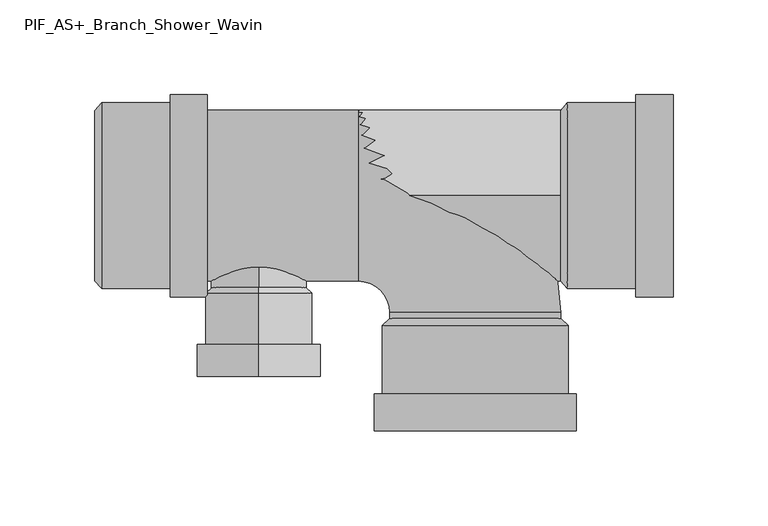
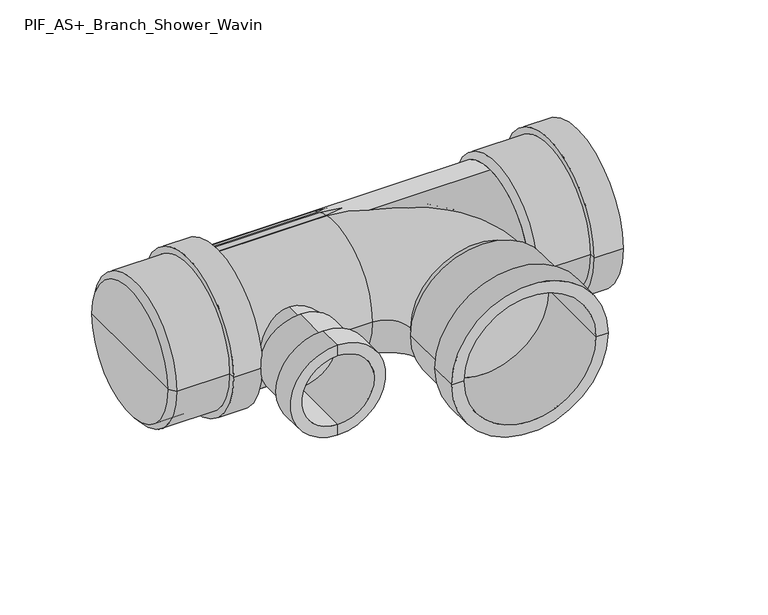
"""IFC4 building model written with IfcOpenShell, lengths in millimetres: pipe fitting geometry, PIF_AS+_Branch_Shower_Wavin : 1. DN100-50/90-50 Standard."""

from ifc_helpers import new_model, si_unit, point, frame, frame_2d, origin, origin_2d, place, context, project, spatial, polyline, circle_curve, ellipse_curve, trimmed, segment, composite_curve, outline, extrude, source, transform, mapped, element, save
from ifc_brep_helpers import plane_surface, cylinder_surface, revolved_surface, advanced_brep


def pif_as_branch_shower_wavin_a978f990(model_context):
    return source(origin(), model_context, "Body", "SolidModel", [
        advanced_brep(
        [(-114.0, -48.3, -24.75), (-114.0, -48.3, 24.75), (-114.0, -51.3, 28.0), (-114.0, -51.3, -28.0), (-114.0, -48.3, 0.0), (-114.0, -51.3, -24.75), (-114.0, -51.3, 24.75), (-114.0, -51.3, 0.0), (-114.0, -95.3, -24.75), (-114.0, -95.3, 24.75), (-114.0, -95.3, -32.35), (-114.0, -95.3, 32.35), (-114.0, -78.3, -32.35), (-114.0, -78.3, 32.35), (-114.0, -78.3, -28.0), (-114.0, -78.3, 28.0)],
        [
            (0, 1, circle_curve(frame((-114.0, -48.3, 0.0), z_axis=(0.0, -1.0, 0.0), x_axis=(0.0, 0.0, 1.0)), 24.75)),
            (1, 2),
            (2, 3, circle_curve(frame((-114.0, -51.3, 0.0), z_axis=(0.0, 1.0, 0.0), x_axis=(0.0, 0.0, 1.0)), 28.0)),
            (3, 0),
            (1, 0, circle_curve(frame((-114.0, -48.3, 0.0), z_axis=(0.0, -1.0, 0.0), x_axis=(0.0, 0.0, 1.0)), 24.75)),
            (3, 2, circle_curve(frame((-114.0, -51.3, 0.0), z_axis=(0.0, 1.0, 0.0), x_axis=(0.0, 0.0, 1.0)), 28.0)),
            (4, 1),
            (0, 4),
            (5, 6, circle_curve(frame((-114.0, -51.3, 0.0), z_axis=(0.0, -1.0, 0.0), x_axis=(0.0, 0.0, 1.0)), 24.75)),
            (6, 7),
            (7, 5),
            (6, 5, circle_curve(frame((-114.0, -51.3, 0.0), z_axis=(0.0, -1.0, 0.0), x_axis=(0.0, 0.0, 1.0)), 24.75)),
            (8, 9, circle_curve(frame((-114.0, -95.3, 0.0), z_axis=(0.0, -1.0, 0.0), x_axis=(0.0, 0.0, 1.0)), 24.75)),
            (9, 6),
            (5, 8),
            (9, 8, circle_curve(frame((-114.0, -95.3, 0.0), z_axis=(0.0, -1.0, 0.0), x_axis=(0.0, 0.0, 1.0)), 24.75)),
            (10, 11, circle_curve(frame((-114.0, -95.3, 0.0), z_axis=(0.0, -1.0, 0.0), x_axis=(0.0, 0.0, 1.0)), 32.35)),
            (11, 9),
            (8, 10),
            (11, 10, circle_curve(frame((-114.0, -95.3, 0.0), z_axis=(0.0, -1.0, 0.0), x_axis=(0.0, 0.0, 1.0)), 32.35)),
            (12, 13, circle_curve(frame((-114.0, -78.3, 0.0), z_axis=(0.0, -1.0, 0.0), x_axis=(0.0, 0.0, 1.0)), 32.35)),
            (13, 11),
            (10, 12),
            (13, 12, circle_curve(frame((-114.0, -78.3, 0.0), z_axis=(0.0, -1.0, 0.0), x_axis=(0.0, 0.0, 1.0)), 32.35)),
            (14, 15, circle_curve(frame((-114.0, -78.3, 0.0), z_axis=(0.0, -1.0, 0.0), x_axis=(0.0, 0.0, 1.0)), 28.0)),
            (15, 13),
            (12, 14),
            (15, 14, circle_curve(frame((-114.0, -78.3, 0.0), z_axis=(0.0, -1.0, 0.0), x_axis=(0.0, 0.0, 1.0)), 28.0)),
            (2, 15),
            (14, 3),
        ],
        [
            revolved_surface(polyline([(-114.0, -51.3, 28.0), (-114.0, -48.3, 24.75)]), (-114.0, -1998.4265064, 0.0), (0.0, 1.0, 0.0)),
            plane_surface(frame((-114.0, -48.3, 0.0), z_axis=(0.0, 1.0, 0.0), x_axis=(0.0, 0.0, 1.0))),
            plane_surface(frame((-114.0, -51.3, 0.0), z_axis=(0.0, -1.0, 0.0), x_axis=(0.0, 0.0, 1.0))),
            revolved_surface(polyline([(-114.0, -51.299999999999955, 24.75), (-114.0, -95.29999999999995, 24.75)]), (-114.0, -1998.4265064, 0.0), (0.0, 1.0, 0.0)),
            plane_surface(frame((-114.0, -95.3, 0.0), z_axis=(0.0, -1.0, 0.0), x_axis=(0.0, 0.0, 1.0))),
            cylinder_surface(frame((-114.0, -1998.4265064, 0.0), z_axis=(0.0, 1.0, 0.0), x_axis=(0.0, 0.0, 1.0)), 32.35),
            plane_surface(frame((-114.0, -78.3, 0.0), z_axis=(0.0, 1.0, 0.0), x_axis=(0.0, 0.0, 1.0))),
            cylinder_surface(frame((-114.0, -1998.4265064, 0.0), z_axis=(0.0, 1.0, 0.0), x_axis=(0.0, 0.0, 1.0)), 28.0),
        ],
        [
            (0, [[1, 2, 3, 4]]),
            (0, [[5, -4, 6, -2]]),
            (1, [[7, -1, 8]]),
            (1, [[-8, -5, -7]]),
            (2, [[9, 10, 11]]),
            (2, [[12, -11, -10]]),
            (3, [[13, 14, -9, 15]]),
            (3, [[16, -15, -12, -14]]),
            (4, [[17, 18, -13, 19]]),
            (4, [[20, -19, -16, -18]]),
            (5, [[21, 22, -17, 23]]),
            (5, [[24, -23, -20, -22]]),
            (6, [[25, 26, -21, 27]]),
            (6, [[28, -27, -24, -26]]),
            (7, [[-3, 29, -25, 30]]),
            (7, [[-6, -30, -28, -29]]),
        ],
    ),
        advanced_brep(
        [(-200.4, -45.0, 0.0), (-200.4, 45.0, 0.0), (-196.8, 49.0, 0.0), (-196.8, -49.0, 0.0), (-200.4, 0.0, 0.0), (-196.8, -45.0, 0.0), (-196.8, 45.0, 0.0), (-196.8, 0.0, 0.0), (-141.1, -45.0, 0.0), (-141.1, 45.0, 0.0), (-141.1, -53.25, 0.0), (-141.1, 53.25, 0.0), (-160.7, -53.25, 0.0), (-160.7, 53.25, 0.0), (-160.7, -49.0, 0.0), (-160.7, 49.0, 0.0)],
        [
            (0, 1, circle_curve(frame((-200.4, 0.0, 0.0), z_axis=(1.0, 0.0, 0.0), x_axis=(0.0, 1.0, 0.0)), 45.0)),
            (1, 2),
            (2, 3, circle_curve(frame((-196.8, 0.0, 0.0), z_axis=(-1.0, 0.0, 0.0), x_axis=(0.0, 1.0, 0.0)), 49.0)),
            (3, 0),
            (1, 0, circle_curve(frame((-200.4, 0.0, 0.0), z_axis=(1.0, 0.0, 0.0), x_axis=(0.0, 1.0, 0.0)), 45.0)),
            (3, 2, circle_curve(frame((-196.8, 0.0, 0.0), z_axis=(-1.0, 0.0, 0.0), x_axis=(0.0, 1.0, 0.0)), 49.0)),
            (4, 1),
            (0, 4),
            (5, 6, circle_curve(frame((-196.8, 0.0, 0.0), z_axis=(1.0, 0.0, 0.0), x_axis=(0.0, 1.0, 0.0)), 45.0)),
            (6, 7),
            (7, 5),
            (6, 5, circle_curve(frame((-196.8, 0.0, 0.0), z_axis=(1.0, 0.0, 0.0), x_axis=(0.0, 1.0, 0.0)), 45.0)),
            (8, 9, circle_curve(frame((-141.1, 0.0, 0.0), z_axis=(1.0, 0.0, 0.0), x_axis=(0.0, 1.0, 0.0)), 45.0)),
            (9, 6),
            (5, 8),
            (9, 8, circle_curve(frame((-141.1, 0.0, 0.0), z_axis=(1.0, 0.0, 0.0), x_axis=(0.0, 1.0, 0.0)), 45.0)),
            (10, 11, circle_curve(frame((-141.1, 0.0, 0.0), z_axis=(1.0, 0.0, 0.0), x_axis=(0.0, 1.0, 0.0)), 53.25)),
            (11, 9),
            (8, 10),
            (11, 10, circle_curve(frame((-141.1, 0.0, 0.0), z_axis=(1.0, 0.0, 0.0), x_axis=(0.0, 1.0, 0.0)), 53.25)),
            (12, 13, circle_curve(frame((-160.7, 0.0, 0.0), z_axis=(1.0, 0.0, 0.0), x_axis=(0.0, 1.0, 0.0)), 53.25)),
            (13, 11),
            (10, 12),
            (13, 12, circle_curve(frame((-160.7, 0.0, 0.0), z_axis=(1.0, 0.0, 0.0), x_axis=(0.0, 1.0, 0.0)), 53.25)),
            (14, 15, circle_curve(frame((-160.7, 0.0, 0.0), z_axis=(1.0, 0.0, 0.0), x_axis=(0.0, 1.0, 0.0)), 49.0)),
            (15, 13),
            (12, 14),
            (15, 14, circle_curve(frame((-160.7, 0.0, 0.0), z_axis=(1.0, 0.0, 0.0), x_axis=(0.0, 1.0, 0.0)), 49.0)),
            (2, 15),
            (14, 3),
        ],
        [
            revolved_surface(polyline([(-196.8, 49.0, 0.0), (-200.4, 45.0, 0.0)]), (1762.0265064, 0.0, 0.0), (-1.0, 0.0, 0.0)),
            plane_surface(frame((-200.4, 0.0, 0.0), z_axis=(-1.0, 0.0, 0.0), x_axis=(0.0, 1.0, 0.0))),
            plane_surface(frame((-196.8, 0.0, 0.0), z_axis=(1.0, 0.0, 0.0), x_axis=(0.0, 1.0, 0.0))),
            revolved_surface(polyline([(-196.79999999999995, 45.0, 0.0), (-141.0999999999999, 45.0, 0.0)]), (1762.0265064, 0.0, 0.0), (-1.0, 0.0, 0.0)),
            plane_surface(frame((-141.1, 0.0, 0.0), z_axis=(1.0, 0.0, 0.0), x_axis=(0.0, 1.0, 0.0))),
            cylinder_surface(frame((1762.0265064, 0.0, 0.0), z_axis=(-1.0, 0.0, 0.0), x_axis=(0.0, 1.0, 0.0)), 53.25),
            plane_surface(frame((-160.7, 0.0, 0.0), z_axis=(-1.0, 0.0, 0.0), x_axis=(0.0, 1.0, 0.0))),
            cylinder_surface(frame((1762.0265064, 0.0, 0.0), z_axis=(-1.0, 0.0, 0.0), x_axis=(0.0, 1.0, 0.0)), 49.0),
        ],
        [
            (0, [[1, 2, 3, 4]]),
            (0, [[5, -4, 6, -2]]),
            (1, [[7, -1, 8]]),
            (1, [[-8, -5, -7]]),
            (2, [[9, 10, 11]]),
            (2, [[12, -11, -10]]),
            (3, [[13, 14, -9, 15]]),
            (3, [[16, -15, -12, -14]]),
            (4, [[17, 18, -13, 19]]),
            (4, [[20, -19, -16, -18]]),
            (5, [[21, 22, -17, 23]]),
            (5, [[24, -23, -20, -22]]),
            (6, [[25, 26, -21, 27]]),
            (6, [[28, -27, -24, -26]]),
            (7, [[-3, 29, -25, 30]]),
            (7, [[-6, -30, -28, -29]]),
        ],
    ),
        advanced_brep(
        [(-45.0, -64.8, 0.0), (45.0, -64.8, 0.0), (49.0, -68.4, 0.0), (-49.0, -68.4, 0.0), (0.0, -64.8, 0.0), (-45.0, -68.4, 0.0), (45.0, -68.4, 0.0), (0.0, -68.4, 0.0), (-45.0, -124.1, 0.0), (45.0, -124.1, 0.0), (-53.25, -124.1, 0.0), (53.25, -124.1, 0.0), (-53.25, -104.5, 0.0), (53.25, -104.5, 0.0), (-49.0, -104.5, 0.0), (49.0, -104.5, 0.0)],
        [
            (0, 1, circle_curve(frame((0.0, -64.8, 0.0), z_axis=(0.0, -1.0, 0.0), x_axis=(1.0000000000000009, 0.0, 0.0)), 45.0)),
            (1, 2),
            (2, 3, circle_curve(frame((0.0, -68.4, 0.0), z_axis=(0.0, 1.0, 0.0), x_axis=(1.0000000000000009, 0.0, 0.0)), 49.0)),
            (3, 0),
            (1, 0, circle_curve(frame((0.0, -64.8, 0.0), z_axis=(0.0, -1.0, 0.0), x_axis=(1.0000000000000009, 0.0, 0.0)), 45.0)),
            (3, 2, circle_curve(frame((0.0, -68.4, 0.0), z_axis=(0.0, 1.0, 0.0), x_axis=(1.0000000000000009, 0.0, 0.0)), 49.0)),
            (4, 1),
            (0, 4),
            (5, 6, circle_curve(frame((0.0, -68.4, 0.0), z_axis=(0.0, -1.0, 0.0), x_axis=(1.0000000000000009, 0.0, 0.0)), 45.0)),
            (6, 7),
            (7, 5),
            (6, 5, circle_curve(frame((0.0, -68.4, 0.0), z_axis=(0.0, -1.0, 0.0), x_axis=(1.0000000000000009, 0.0, 0.0)), 45.0)),
            (8, 9, circle_curve(frame((0.0, -124.1, 0.0), z_axis=(0.0, -1.0, 0.0), x_axis=(1.0000000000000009, 0.0, 0.0)), 45.0)),
            (9, 6),
            (5, 8),
            (9, 8, circle_curve(frame((0.0, -124.1, 0.0), z_axis=(0.0, -1.0, 0.0), x_axis=(1.0000000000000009, 0.0, 0.0)), 45.0)),
            (10, 11, circle_curve(frame((0.0, -124.1, 0.0), z_axis=(0.0, -1.0, 0.0), x_axis=(1.0000000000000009, 0.0, 0.0)), 53.25)),
            (11, 9),
            (8, 10),
            (11, 10, circle_curve(frame((0.0, -124.1, 0.0), z_axis=(0.0, -1.0, 0.0), x_axis=(1.0000000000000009, 0.0, 0.0)), 53.25)),
            (12, 13, circle_curve(frame((0.0, -104.5, 0.0), z_axis=(0.0, -1.0, 0.0), x_axis=(1.0000000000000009, 0.0, 0.0)), 53.25)),
            (13, 11),
            (10, 12),
            (13, 12, circle_curve(frame((0.0, -104.5, 0.0), z_axis=(0.0, -1.0, 0.0), x_axis=(1.0000000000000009, 0.0, 0.0)), 53.25)),
            (14, 15, circle_curve(frame((0.0, -104.5, 0.0), z_axis=(0.0, -1.0, 0.0), x_axis=(1.0000000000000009, 0.0, 0.0)), 49.0)),
            (15, 13),
            (12, 14),
            (15, 14, circle_curve(frame((0.0, -104.5, 0.0), z_axis=(0.0, -1.0, 0.0), x_axis=(1.0000000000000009, 0.0, 0.0)), 49.0)),
            (2, 15),
            (14, 3),
        ],
        [
            revolved_surface(polyline([(49.0, -68.4, 0.0), (45.0, -64.8, 0.0)]), (0.0, -2027.2265064, 0.0), (0.0, 1.0000000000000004, 0.0)),
            plane_surface(frame((0.0, -64.8, 0.0), z_axis=(0.0, 1.0, 0.0), x_axis=(1.0, 0.0, 0.0))),
            plane_surface(frame((0.0, -68.4, 0.0), z_axis=(0.0, -1.0, 0.0), x_axis=(1.0, 0.0, 0.0))),
            revolved_surface(polyline([(45.00000000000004, -68.39999999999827, 0.0), (45.00000000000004, -124.09999999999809, 0.0)]), (0.0, -2027.2265064, 0.0), (0.0, 1.0000000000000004, 0.0)),
            plane_surface(frame((0.0, -124.1, 0.0), z_axis=(0.0, -1.0, 0.0), x_axis=(1.0, 0.0, 0.0))),
            cylinder_surface(frame((0.0, -2027.2265064, 0.0), z_axis=(0.0, 1.0000000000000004, 0.0), x_axis=(1.0000000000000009, 0.0, 0.0)), 53.25),
            plane_surface(frame((0.0, -104.5, 0.0), z_axis=(0.0, 1.0, 0.0), x_axis=(1.0, 0.0, 0.0))),
            cylinder_surface(frame((0.0, -2027.2265064, 0.0), z_axis=(0.0, 1.0000000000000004, 0.0), x_axis=(1.0000000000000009, 0.0, 0.0)), 49.0),
        ],
        [
            (0, [[1, 2, 3, 4]]),
            (0, [[5, -4, 6, -2]]),
            (1, [[7, -1, 8]]),
            (1, [[-8, -5, -7]]),
            (2, [[9, 10, 11]]),
            (2, [[12, -11, -10]]),
            (3, [[13, 14, -9, 15]]),
            (3, [[16, -15, -12, -14]]),
            (4, [[17, 18, -13, 19]]),
            (4, [[20, -19, -16, -18]]),
            (5, [[21, 22, -17, 23]]),
            (5, [[24, -23, -20, -22]]),
            (6, [[25, 26, -21, 27]]),
            (6, [[28, -27, -24, -26]]),
            (7, [[-3, 29, -25, 30]]),
            (7, [[-6, -30, -28, -29]]),
        ],
    ),
        advanced_brep(
        [(45.0, -45.0, 0.0), (45.0, 45.0, 0.0), (48.6, 49.0, 0.0), (48.6, -49.0, 0.0), (45.0, 0.0, 0.0), (48.6, -45.0, 0.0), (48.6, 45.0, 0.0), (48.6, 0.0, 0.0), (104.3, -45.0, 0.0), (104.3, 45.0, 0.0), (104.3, -53.25, 0.0), (104.3, 53.25, 0.0), (84.7, -53.25, 0.0), (84.7, 53.25, 0.0), (84.7, -49.0, 0.0), (84.7, 49.0, 0.0)],
        [
            (0, 1, circle_curve(frame((45.0, 0.0, 0.0), z_axis=(1.0, 0.0, 0.0), x_axis=(0.0, 1.0000000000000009, 0.0)), 45.0)),
            (1, 2),
            (2, 3, circle_curve(frame((48.6, 0.0, 0.0), z_axis=(-1.0, 0.0, 0.0), x_axis=(0.0, 1.0000000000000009, 0.0)), 49.0)),
            (3, 0),
            (1, 0, circle_curve(frame((45.0, 0.0, 0.0), z_axis=(1.0, 0.0, 0.0), x_axis=(0.0, 1.0000000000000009, 0.0)), 45.0)),
            (3, 2, circle_curve(frame((48.6, 0.0, 0.0), z_axis=(-1.0, 0.0, 0.0), x_axis=(0.0, 1.0000000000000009, 0.0)), 49.0)),
            (4, 1),
            (0, 4),
            (5, 6, circle_curve(frame((48.6, 0.0, 0.0), z_axis=(1.0, 0.0, 0.0), x_axis=(0.0, 1.0000000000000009, 0.0)), 45.0)),
            (6, 7),
            (7, 5),
            (6, 5, circle_curve(frame((48.6, 0.0, 0.0), z_axis=(1.0, 0.0, 0.0), x_axis=(0.0, 1.0000000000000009, 0.0)), 45.0)),
            (8, 9, circle_curve(frame((104.3, 0.0, 0.0), z_axis=(1.0, 0.0, 0.0), x_axis=(0.0, 1.0000000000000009, 0.0)), 45.0)),
            (9, 6),
            (5, 8),
            (9, 8, circle_curve(frame((104.3, 0.0, 0.0), z_axis=(1.0, 0.0, 0.0), x_axis=(0.0, 1.0000000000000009, 0.0)), 45.0)),
            (10, 11, circle_curve(frame((104.3, 0.0, 0.0), z_axis=(1.0, 0.0, 0.0), x_axis=(0.0, 1.0000000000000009, 0.0)), 53.25)),
            (11, 9),
            (8, 10),
            (11, 10, circle_curve(frame((104.3, 0.0, 0.0), z_axis=(1.0, 0.0, 0.0), x_axis=(0.0, 1.0000000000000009, 0.0)), 53.25)),
            (12, 13, circle_curve(frame((84.7, 0.0, 0.0), z_axis=(1.0, 0.0, 0.0), x_axis=(0.0, 1.0000000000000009, 0.0)), 53.25)),
            (13, 11),
            (10, 12),
            (13, 12, circle_curve(frame((84.7, 0.0, 0.0), z_axis=(1.0, 0.0, 0.0), x_axis=(0.0, 1.0000000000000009, 0.0)), 53.25)),
            (14, 15, circle_curve(frame((84.7, 0.0, 0.0), z_axis=(1.0, 0.0, 0.0), x_axis=(0.0, 1.0000000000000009, 0.0)), 49.0)),
            (15, 13),
            (12, 14),
            (15, 14, circle_curve(frame((84.7, 0.0, 0.0), z_axis=(1.0, 0.0, 0.0), x_axis=(0.0, 1.0000000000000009, 0.0)), 49.0)),
            (2, 15),
            (14, 3),
        ],
        [
            revolved_surface(polyline([(48.6, 49.0, 0.0), (45.0, 45.0, 0.0)]), (2007.4265064, 0.0, 0.0), (-1.0000000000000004, 0.0, 0.0)),
            plane_surface(frame((45.0, 0.0, 0.0), z_axis=(-1.0, 0.0, 0.0), x_axis=(0.0, 1.0, 0.0))),
            plane_surface(frame((48.6, 0.0, 0.0), z_axis=(1.0, 0.0, 0.0), x_axis=(0.0, 1.0, 0.0))),
            revolved_surface(polyline([(48.59999999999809, 45.00000000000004, 0.0), (104.29999999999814, 45.00000000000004, 0.0)]), (2007.4265064, 0.0, 0.0), (-1.0000000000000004, 0.0, 0.0)),
            plane_surface(frame((104.3, 0.0, 0.0), z_axis=(1.0, 0.0, 0.0), x_axis=(0.0, 1.0, 0.0))),
            cylinder_surface(frame((2007.4265064, 0.0, 0.0), z_axis=(-1.0000000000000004, 0.0, 0.0), x_axis=(0.0, 1.0000000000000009, 0.0)), 53.25),
            plane_surface(frame((84.7, 0.0, 0.0), z_axis=(-1.0, 0.0, 0.0), x_axis=(0.0, 1.0, 0.0))),
            cylinder_surface(frame((2007.4265064, 0.0, 0.0), z_axis=(-1.0000000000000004, 0.0, 0.0), x_axis=(0.0, 1.0000000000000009, 0.0)), 49.0),
        ],
        [
            (0, [[1, 2, 3, 4]]),
            (0, [[5, -4, 6, -2]]),
            (1, [[7, -1, 8]]),
            (1, [[-8, -5, -7]]),
            (2, [[9, 10, 11]]),
            (2, [[12, -11, -10]]),
            (3, [[13, 14, -9, 15]]),
            (3, [[16, -15, -12, -14]]),
            (4, [[17, 18, -13, 19]]),
            (4, [[20, -19, -16, -18]]),
            (5, [[21, 22, -17, 23]]),
            (5, [[24, -23, -20, -22]]),
            (6, [[25, 26, -21, 27]]),
            (6, [[28, -27, -24, -26]]),
            (7, [[-3, 29, -25, 30]]),
            (7, [[-6, -30, -28, -29]]),
        ],
    ),
        advanced_brep(
        [(-196.8, -45.05, 0.0), (-196.8, 45.05, 0.0), (-61.56, -45.05, 0.0), (-61.56, 45.05, 0.0), (-45.05, -68.4, 0.0), (45.05, -68.4, 0.0), (45.05, -61.56, 0.0), (-45.05, -61.56, 0.0)],
        [
            (0, 1, circle_curve(frame((-196.8, 0.0, 0.0), z_axis=(-1.0, 0.0, 0.0), x_axis=(0.0, 1.0, 0.0)), 45.05)),
            (1, 0, circle_curve(frame((-196.8, 0.0, 0.0), z_axis=(-1.0, 0.0, 0.0), x_axis=(0.0, 1.0, 0.0)), 45.05)),
            (0, 2),
            (2, 3, circle_curve(frame((-61.56, 0.0, 0.0), z_axis=(-1.0, 0.0, 0.0), x_axis=(0.0, 1.0, 0.0)), 45.05)),
            (3, 1),
            (3, 2, circle_curve(frame((-61.56, 0.0, 0.0), z_axis=(-1.0, 0.0, 0.0), x_axis=(0.0, 1.0, 0.0)), 45.05)),
            (4, 5, circle_curve(frame((0.0, -68.4, 0.0), z_axis=(0.0, -1.0, 0.0), x_axis=(1.0, 0.0, 0.0)), 45.05)),
            (5, 4, circle_curve(frame((0.0, -68.4, 0.0), z_axis=(0.0, -1.0, 0.0), x_axis=(1.0, 0.0, 0.0)), 45.05)),
            (6, 7, circle_curve(frame((0.0, -61.56, 0.0), z_axis=(0.0, -1.0, 0.0), x_axis=(1.0, 0.0, 0.0)), 45.05)),
            (7, 4),
            (5, 6),
            (7, 6, circle_curve(frame((0.0, -61.56, 0.0), z_axis=(0.0, -1.0, 0.0), x_axis=(1.0, 0.0, 0.0)), 45.05)),
            (6, 3, circle_curve(frame((-61.56, -61.56, 0.0), z_axis=(0.0, 0.0, 1.0), x_axis=(0.0, 1.0, 0.0)), 106.61)),
            (2, 7, circle_curve(frame((-61.56, -61.56, 0.0), z_axis=(0.0, 0.0, -1.0), x_axis=(0.0, 1.0, 0.0)), 16.51)),
        ],
        [
            plane_surface(frame((-196.8, 0.0, 0.0), z_axis=(-1.0, 0.0, 0.0), x_axis=(0.0, 0.0, 1.0))),
            cylinder_surface(frame((-196.8, 0.0, 0.0), z_axis=(-1.0, 0.0, 0.0), x_axis=(0.0, 1.0, 0.0)), 45.05),
            plane_surface(frame((0.0, -68.4, 0.0), z_axis=(0.0, -1.0, 0.0), x_axis=(0.0, 0.0, 1.0))),
            cylinder_surface(frame((0.0, -61.56, 0.0), z_axis=(0.0, 1.0, 0.0), x_axis=(1.0, 0.0, 0.0)), 45.05),
            revolved_surface(trimmed(ellipse_curve(frame((-61.56, 0.0, 0.0), z_axis=(-1.0, 0.0, 0.0), x_axis=(0.0, 1.0, 0.0)), 45.05, 45.05), [point((-61.56, -45.05, 0.0))], [point((-61.56, 45.05, 0.0))], True, "CARTESIAN"), (-61.56, -61.56, 0.0), (0.0, 0.0, -1.0)),
            revolved_surface(trimmed(ellipse_curve(frame((-61.56, 0.0, 0.0), z_axis=(-1.0, 0.0, 0.0), x_axis=(0.0, 1.0, 0.0)), 45.05, 45.05), [point((-61.56, 45.05, 0.0))], [point((-61.56, -45.05, 0.0))], True, "CARTESIAN"), (-61.56, -61.56, 0.0), (0.0, 0.0, -1.0)),
        ],
        [
            (0, [[1, 2]]),
            (1, [[-1, 3, 4, 5]]),
            (1, [[-2, -5, 6, -3]]),
            (2, [[7, 8]]),
            (3, [[9, 10, -8, 11]]),
            (3, [[12, -11, -7, -10]]),
            (4, [[13, -4, 14, -9]]),
            (5, [[-14, -6, -13, -12]]),
        ],
    ),
        extrude(outline(composite_curve([segment(trimmed(circle_curve(frame_2d((0.0, -114.0)), 25.0), [point((-25.0, -114.0))], [point((25.0, -114.0))], False, "CARTESIAN"), True, "CONTINUOUS"), segment(trimmed(circle_curve(frame_2d((0.0, -114.0)), 25.0), [point((25.0, -114.0))], [point((-25.0, -114.0))], False, "CARTESIAN"), True, "CONTINUOUS")], self_intersect=False)), frame((0.0, -51.3, 0.0), z_axis=(0.0, 1.0, 0.0), x_axis=(0.0, 0.0, 1.0)), (0.0, 0.0, 1.0), 51.3),
        extrude(outline(composite_curve([segment(trimmed(circle_curve(origin_2d(), 45.05), [point((0.0, -45.05))], [point((0.0, 45.05))], False, "CARTESIAN"), True, "CONTINUOUS"), segment(trimmed(circle_curve(origin_2d(), 45.05), [point((0.0, 45.05))], [point((0.0, -45.05))], False, "CARTESIAN"), True, "CONTINUOUS")], self_intersect=False)), frame((-196.8, 0.0, 0.0), z_axis=(1.0, 0.0, 0.0), x_axis=(0.0, 1.0, 0.0)), (0.0, 0.0, 1.0), 245.4),
    ])


if __name__ == "__main__":
    model = new_model("IFC4")
    model_context = context("Model", 3, world=origin())
    ifc_project = project(units=[si_unit("LENGTHUNIT", "METRE", prefix="MILLI")], contexts=[model_context])
    site = spatial("IfcSite", under=ifc_project)
    building = spatial("IfcBuilding", under=site)
    placement = place(None, origin())
    pif_as_branch_shower_wavin_shape = pif_as_branch_shower_wavin_a978f990(model_context)
    element("IfcPipeFitting", 1, ObjectType="PIF_AS+_Branch_Shower_Wavin : 1. DN100-50/90-50 Standard", at=placement, inside=building, context=model_context, shape_type="MappedRepresentation", body=[
        mapped(pif_as_branch_shower_wavin_shape, transform((0.0, 0.0, 0.0), x_axis=(1.0, 0.0, 0.0), y_axis=(0.0, 1.0, 0.0), z_axis=(0.0, 0.0, 1.0))),
    ])
    save(model, "model.ifc")
